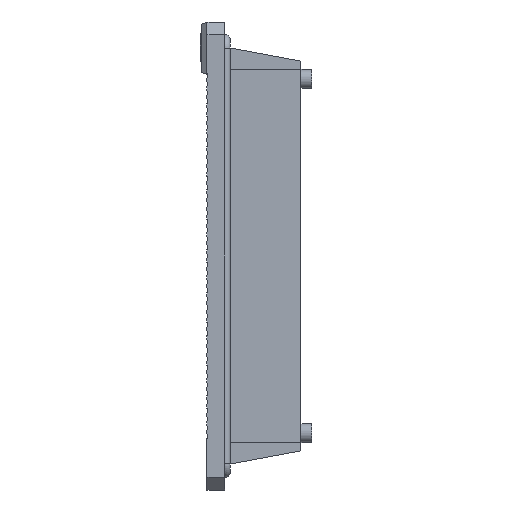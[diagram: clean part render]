
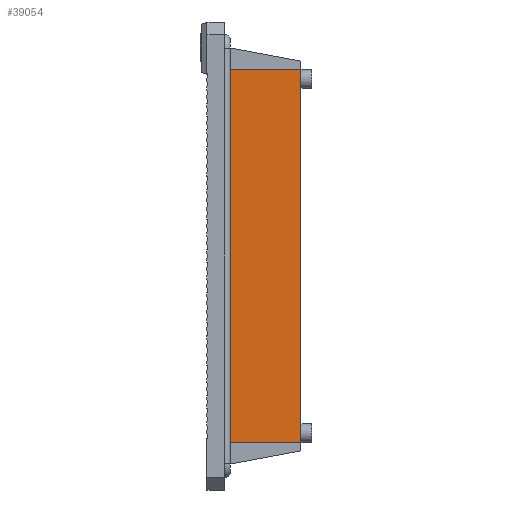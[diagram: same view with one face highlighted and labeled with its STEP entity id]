
A CAD part, left-side view. The second image highlights one B-rep face of the part: STEP entity #39054.
In plain terms, the highlighted planar face has unit normal (-1, 0, 0).
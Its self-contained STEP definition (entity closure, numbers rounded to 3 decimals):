
#1735 = EDGE_CURVE ( 'NONE', #24729, #18795, #9170, .T. ) ;
#3363 = CARTESIAN_POINT ( 'NONE',  ( -45., 0., 45. ) ) ;
#3559 = CARTESIAN_POINT ( 'NONE',  ( -45., 17.75, 43.5 ) ) ;
#3866 = CARTESIAN_POINT ( 'NONE',  ( -45., 17.75, 45. ) ) ;
#4960 = DIRECTION ( 'NONE',  ( 0., 0., 1. ) ) ;
#6499 = VERTEX_POINT ( 'NONE', #39337 ) ;
#7659 = DIRECTION ( 'NONE',  ( 0., 0., -1. ) ) ;
#8429 = PLANE ( 'NONE',  #46860 ) ;
#9170 = LINE ( 'NONE', #41526, #29308 ) ;
#9940 = LINE ( 'NONE', #3866, #28879 ) ;
#10635 = EDGE_CURVE ( 'NONE', #18795, #6499, #41936, .T. ) ;
#11813 = ORIENTED_EDGE ( 'NONE', *, *, #15263, .T. ) ;
#12686 = VECTOR ( 'NONE', #47187, 1000. ) ;
#15263 = EDGE_CURVE ( 'NONE', #45180, #6499, #32799, .T. ) ;
#18795 = VERTEX_POINT ( 'NONE', #22175 ) ;
#18890 = DIRECTION ( 'NONE',  ( 0., -1., 0. ) ) ;
#21055 = CARTESIAN_POINT ( 'NONE',  ( -45., 17.75, -43.5 ) ) ;
#22169 = DIRECTION ( 'NONE',  ( 0., 0., -1. ) ) ;
#22175 = CARTESIAN_POINT ( 'NONE',  ( -45., 0., 43.5 ) ) ;
#23714 = EDGE_LOOP ( 'NONE', ( #11813, #34704, #27755, #44150 ) ) ;
#24543 = CARTESIAN_POINT ( 'NONE',  ( -45., 34.48, -43.5 ) ) ;
#24729 = VERTEX_POINT ( 'NONE', #3559 ) ;
#27597 = CARTESIAN_POINT ( 'NONE',  ( -45., 168.242, 45. ) ) ;
#27755 = ORIENTED_EDGE ( 'NONE', *, *, #1735, .F. ) ;
#28879 = VECTOR ( 'NONE', #7659, 1000. ) ;
#29308 = VECTOR ( 'NONE', #18890, 1000. ) ;
#31232 = DIRECTION ( 'NONE',  ( -1., 0., 0. ) ) ;
#31948 = FACE_OUTER_BOUND ( 'NONE', #23714, .T. ) ;
#32799 = LINE ( 'NONE', #24543, #12686 ) ;
#34704 = ORIENTED_EDGE ( 'NONE', *, *, #10635, .F. ) ;
#38407 = VECTOR ( 'NONE', #22169, 1000. ) ;
#39054 = ADVANCED_FACE ( 'NONE', ( #31948 ), #8429, .T. ) ;
#39337 = CARTESIAN_POINT ( 'NONE',  ( -45., 0., -43.5 ) ) ;
#40948 = EDGE_CURVE ( 'NONE', #24729, #45180, #9940, .T. ) ;
#41526 = CARTESIAN_POINT ( 'NONE',  ( -45., 34.48, 43.5 ) ) ;
#41936 = LINE ( 'NONE', #3363, #38407 ) ;
#44150 = ORIENTED_EDGE ( 'NONE', *, *, #40948, .T. ) ;
#45180 = VERTEX_POINT ( 'NONE', #21055 ) ;
#46860 = AXIS2_PLACEMENT_3D ( 'NONE', #27597, #31232, #4960 ) ;
#47187 = DIRECTION ( 'NONE',  ( 0., -1., 0. ) ) ;
